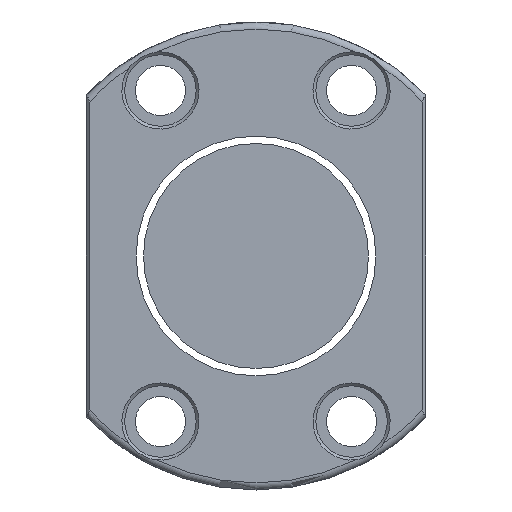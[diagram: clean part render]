
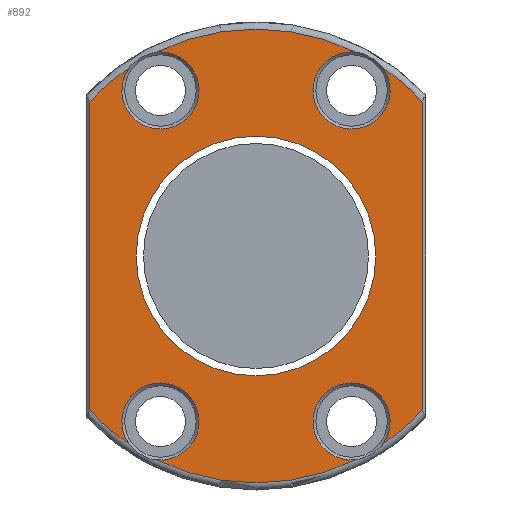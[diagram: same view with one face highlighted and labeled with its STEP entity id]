
A CAD part, left-side view. The second image highlights one B-rep face of the part: STEP entity #892.
In plain terms, the highlighted planar face has unit normal (-1, 0, 0).
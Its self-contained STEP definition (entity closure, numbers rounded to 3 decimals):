
#56 = LINE ( 'NONE', #1812, #500 ) ;
#95 = ORIENTED_EDGE ( 'NONE', *, *, #293, .T. ) ;
#110 = VERTEX_POINT ( 'NONE', #2176 ) ;
#167 = AXIS2_PLACEMENT_3D ( 'NONE', #2012, #756, #2257 ) ;
#293 = EDGE_CURVE ( 'NONE', #1765, #3244, #377, .T. ) ;
#322 = CIRCLE ( 'NONE', #761, 33.55 ) ;
#377 = CIRCLE ( 'NONE', #2324, 10.8 ) ;
#378 = AXIS2_PLACEMENT_3D ( 'NONE', #2086, #1799, #1330 ) ;
#500 = VECTOR ( 'NONE', #563, 1000. ) ;
#519 = DIRECTION ( 'NONE',  ( 0., -1., 0. ) ) ;
#563 = DIRECTION ( 'NONE',  ( 0., 0., -1. ) ) ;
#572 = CARTESIAN_POINT ( 'NONE',  ( -153., -46.7, -43.027 ) ) ;
#588 = CIRCLE ( 'NONE', #3094, 63.5 ) ;
#593 = AXIS2_PLACEMENT_3D ( 'NONE', #782, #1808, #2855 ) ;
#598 = CARTESIAN_POINT ( 'NONE',  ( -153., -35.519, 52.637 ) ) ;
#617 = DIRECTION ( 'NONE',  ( 0., -1., 0. ) ) ;
#618 = CARTESIAN_POINT ( 'NONE',  ( -153., 35.519, 52.637 ) ) ;
#621 = VERTEX_POINT ( 'NONE', #2630 ) ;
#626 = DIRECTION ( 'NONE',  ( 0., -1., 0. ) ) ;
#658 = AXIS2_PLACEMENT_3D ( 'NONE', #873, #852, #626 ) ;
#700 = EDGE_CURVE ( 'NONE', #3235, #1765, #2713, .T. ) ;
#709 = AXIS2_PLACEMENT_3D ( 'NONE', #1289, #1304, #1080 ) ;
#737 = VERTEX_POINT ( 'NONE', #2369 ) ;
#756 = DIRECTION ( 'NONE',  ( -1., 0., 0. ) ) ;
#761 = AXIS2_PLACEMENT_3D ( 'NONE', #1610, #2181, #1334 ) ;
#766 = ORIENTED_EDGE ( 'NONE', *, *, #1018, .T. ) ;
#782 = CARTESIAN_POINT ( 'NONE',  ( -153., 0., 0. ) ) ;
#793 = EDGE_CURVE ( 'NONE', #1370, #1468, #2159, .T. ) ;
#812 = DIRECTION ( 'NONE',  ( 1., 0., 0. ) ) ;
#852 = DIRECTION ( 'NONE',  ( 1., 0., 0. ) ) ;
#873 = CARTESIAN_POINT ( 'NONE',  ( -153., 26.75, 46.332 ) ) ;
#892 = ADVANCED_FACE ( 'NONE', ( #3150, #1529 ), #1829, .T. ) ;
#915 = VERTEX_POINT ( 'NONE', #2102 ) ;
#1000 = EDGE_CURVE ( 'NONE', #737, #1150, #2919, .T. ) ;
#1007 = DIRECTION ( 'NONE',  ( -1., 0., 0. ) ) ;
#1018 = EDGE_CURVE ( 'NONE', #1666, #621, #588, .T. ) ;
#1080 = DIRECTION ( 'NONE',  ( 0., -1., 0. ) ) ;
#1111 = EDGE_CURVE ( 'NONE', #1150, #1666, #1288, .T. ) ;
#1129 = CIRCLE ( 'NONE', #2501, 63.5 ) ;
#1150 = VERTEX_POINT ( 'NONE', #598 ) ;
#1193 = CIRCLE ( 'NONE', #658, 10.8 ) ;
#1288 = CIRCLE ( 'NONE', #2435, 10.8 ) ;
#1289 = CARTESIAN_POINT ( 'NONE',  ( -153., 65.5, 0. ) ) ;
#1304 = DIRECTION ( 'NONE',  ( -1., 0., 0. ) ) ;
#1322 = EDGE_CURVE ( 'NONE', #3244, #2270, #1401, .T. ) ;
#1330 = DIRECTION ( 'NONE',  ( 0., -1., 0. ) ) ;
#1334 = DIRECTION ( 'NONE',  ( 0., 1., 0. ) ) ;
#1370 = VERTEX_POINT ( 'NONE', #1635 ) ;
#1372 = DIRECTION ( 'NONE',  ( 1., 0., 0. ) ) ;
#1375 = DIRECTION ( 'NONE',  ( -1., 0., 0. ) ) ;
#1401 = CIRCLE ( 'NONE', #593, 63.5 ) ;
#1435 = EDGE_CURVE ( 'NONE', #621, #3205, #1193, .T. ) ;
#1468 = VERTEX_POINT ( 'NONE', #572 ) ;
#1489 = ORIENTED_EDGE ( 'NONE', *, *, #1435, .T. ) ;
#1529 = FACE_BOUND ( 'NONE', #1537, .T. ) ;
#1537 = EDGE_LOOP ( 'NONE', ( #3264 ) ) ;
#1586 = ORIENTED_EDGE ( 'NONE', *, *, #1322, .T. ) ;
#1610 = CARTESIAN_POINT ( 'NONE',  ( -153., 0., 0. ) ) ;
#1615 = EDGE_CURVE ( 'NONE', #1468, #737, #2549, .T. ) ;
#1630 = EDGE_LOOP ( 'NONE', ( #2799, #1740, #2239, #766, #1489, #2201, #2139, #1790, #95, #1586, #1657, #2566 ) ) ;
#1635 = CARTESIAN_POINT ( 'NONE',  ( -153., -35.519, -52.637 ) ) ;
#1636 = CARTESIAN_POINT ( 'NONE',  ( -153., 0., 0. ) ) ;
#1645 = CARTESIAN_POINT ( 'NONE',  ( -153., 27.826, -57.079 ) ) ;
#1657 = ORIENTED_EDGE ( 'NONE', *, *, #2626, .T. ) ;
#1666 = VERTEX_POINT ( 'NONE', #2244 ) ;
#1730 = AXIS2_PLACEMENT_3D ( 'NONE', #1636, #1375, #2356 ) ;
#1740 = ORIENTED_EDGE ( 'NONE', *, *, #1000, .T. ) ;
#1765 = VERTEX_POINT ( 'NONE', #2517 ) ;
#1790 = ORIENTED_EDGE ( 'NONE', *, *, #700, .T. ) ;
#1799 = DIRECTION ( 'NONE',  ( -1., 0., 0. ) ) ;
#1808 = DIRECTION ( 'NONE',  ( -1., 0., 0. ) ) ;
#1812 = CARTESIAN_POINT ( 'NONE',  ( -153., 46.7, -45.1 ) ) ;
#1821 = EDGE_CURVE ( 'NONE', #110, #110, #322, .T. ) ;
#1829 = PLANE ( 'NONE',  #709 ) ;
#1897 = CARTESIAN_POINT ( 'NONE',  ( -153., 46.7, -43.027 ) ) ;
#2012 = CARTESIAN_POINT ( 'NONE',  ( -153., 0., 0. ) ) ;
#2086 = CARTESIAN_POINT ( 'NONE',  ( -153., 0., 0. ) ) ;
#2102 = CARTESIAN_POINT ( 'NONE',  ( -153., 46.7, 43.027 ) ) ;
#2139 = ORIENTED_EDGE ( 'NONE', *, *, #2682, .T. ) ;
#2159 = CIRCLE ( 'NONE', #167, 63.5 ) ;
#2160 = DIRECTION ( 'NONE',  ( 0., -1., 0. ) ) ;
#2164 = AXIS2_PLACEMENT_3D ( 'NONE', #3179, #812, #3131 ) ;
#2176 = CARTESIAN_POINT ( 'NONE',  ( -153., 33.55, 0. ) ) ;
#2181 = DIRECTION ( 'NONE',  ( 1., 0., 0. ) ) ;
#2182 = CARTESIAN_POINT ( 'NONE',  ( -153., 26.75, -46.332 ) ) ;
#2201 = ORIENTED_EDGE ( 'NONE', *, *, #2933, .T. ) ;
#2239 = ORIENTED_EDGE ( 'NONE', *, *, #1111, .T. ) ;
#2244 = CARTESIAN_POINT ( 'NONE',  ( -153., -27.826, 57.079 ) ) ;
#2246 = CARTESIAN_POINT ( 'NONE',  ( -153., -27.826, -57.079 ) ) ;
#2257 = DIRECTION ( 'NONE',  ( 0., -1., 0. ) ) ;
#2270 = VERTEX_POINT ( 'NONE', #2246 ) ;
#2315 = DIRECTION ( 'NONE',  ( -1., 0., 0. ) ) ;
#2324 = AXIS2_PLACEMENT_3D ( 'NONE', #2182, #1372, #2160 ) ;
#2356 = DIRECTION ( 'NONE',  ( 0., -1., 0. ) ) ;
#2360 = CARTESIAN_POINT ( 'NONE',  ( -153., 0., 0. ) ) ;
#2369 = CARTESIAN_POINT ( 'NONE',  ( -153., -46.7, 43.027 ) ) ;
#2435 = AXIS2_PLACEMENT_3D ( 'NONE', #3240, #2450, #617 ) ;
#2450 = DIRECTION ( 'NONE',  ( 1., 0., 0. ) ) ;
#2501 = AXIS2_PLACEMENT_3D ( 'NONE', #2529, #1007, #2784 ) ;
#2517 = CARTESIAN_POINT ( 'NONE',  ( -153., 35.519, -52.637 ) ) ;
#2529 = CARTESIAN_POINT ( 'NONE',  ( -153., 0., 0. ) ) ;
#2533 = CARTESIAN_POINT ( 'NONE',  ( -153., -46.7, 45.1 ) ) ;
#2549 = LINE ( 'NONE', #2533, #2604 ) ;
#2556 = CIRCLE ( 'NONE', #2164, 10.8 ) ;
#2566 = ORIENTED_EDGE ( 'NONE', *, *, #793, .T. ) ;
#2604 = VECTOR ( 'NONE', #2994, 1000. ) ;
#2626 = EDGE_CURVE ( 'NONE', #2270, #1370, #2556, .T. ) ;
#2630 = CARTESIAN_POINT ( 'NONE',  ( -153., 27.826, 57.079 ) ) ;
#2682 = EDGE_CURVE ( 'NONE', #915, #3235, #56, .T. ) ;
#2713 = CIRCLE ( 'NONE', #1730, 63.5 ) ;
#2784 = DIRECTION ( 'NONE',  ( 0., -1., 0. ) ) ;
#2799 = ORIENTED_EDGE ( 'NONE', *, *, #1615, .T. ) ;
#2855 = DIRECTION ( 'NONE',  ( 0., -1., 0. ) ) ;
#2919 = CIRCLE ( 'NONE', #378, 63.5 ) ;
#2933 = EDGE_CURVE ( 'NONE', #3205, #915, #1129, .T. ) ;
#2994 = DIRECTION ( 'NONE',  ( 0., 0., 1. ) ) ;
#3094 = AXIS2_PLACEMENT_3D ( 'NONE', #2360, #2315, #519 ) ;
#3131 = DIRECTION ( 'NONE',  ( 0., -1., 0. ) ) ;
#3150 = FACE_OUTER_BOUND ( 'NONE', #1630, .T. ) ;
#3179 = CARTESIAN_POINT ( 'NONE',  ( -153., -26.75, -46.332 ) ) ;
#3205 = VERTEX_POINT ( 'NONE', #618 ) ;
#3235 = VERTEX_POINT ( 'NONE', #1897 ) ;
#3240 = CARTESIAN_POINT ( 'NONE',  ( -153., -26.75, 46.332 ) ) ;
#3244 = VERTEX_POINT ( 'NONE', #1645 ) ;
#3264 = ORIENTED_EDGE ( 'NONE', *, *, #1821, .T. ) ;
